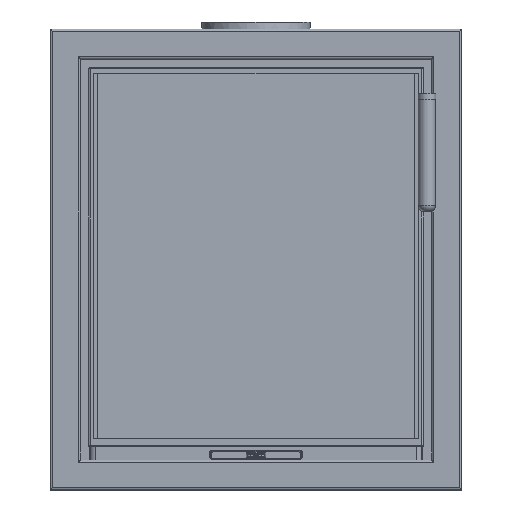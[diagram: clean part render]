
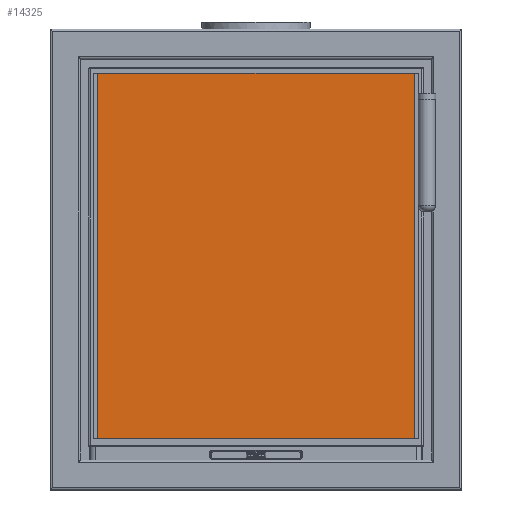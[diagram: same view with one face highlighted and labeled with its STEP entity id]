
A CAD part, front view. The second image highlights one B-rep face of the part: STEP entity #14325.
In plain terms, the highlighted planar face has unit normal (0, -1, 0).
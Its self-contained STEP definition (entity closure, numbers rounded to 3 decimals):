
#3296=ORIENTED_EDGE('',*,*,#6430,.T.);
#3297=ORIENTED_EDGE('',*,*,#6433,.T.);
#3298=ORIENTED_EDGE('',*,*,#6435,.T.);
#3299=ORIENTED_EDGE('',*,*,#6436,.T.);
#6430=EDGE_CURVE('',#8161,#8160,#9591,.T.);
#6433=EDGE_CURVE('',#8160,#8162,#9594,.T.);
#6435=EDGE_CURVE('',#8162,#8163,#9596,.T.);
#6436=EDGE_CURVE('',#8163,#8161,#9597,.T.);
#8160=VERTEX_POINT('',#27121);
#8161=VERTEX_POINT('',#27123);
#8162=VERTEX_POINT('',#27127);
#8163=VERTEX_POINT('',#27131);
#9591=LINE('',#27122,#10999);
#9594=LINE('',#27128,#11002);
#9596=LINE('',#27132,#11004);
#9597=LINE('',#27134,#11005);
#10999=VECTOR('',#18328,1000.);
#11002=VECTOR('',#18333,1000.);
#11004=VECTOR('',#18337,1000.);
#11005=VECTOR('',#18340,1000.);
#12024=EDGE_LOOP('',(#3296,#3297,#3298,#3299));
#12976=FACE_BOUND('',#12024,.T.);
#13769=PLANE('',#16041);
#14325=ADVANCED_FACE('',(#12976),#13769,.T.);
#16041=AXIS2_PLACEMENT_3D('',#27135,#18341,#18342);
#18328=DIRECTION('',(0.,0.,-1.));
#18333=DIRECTION('',(1.,0.,0.));
#18337=DIRECTION('',(0.,0.,1.));
#18340=DIRECTION('',(-1.,0.,0.));
#18341=DIRECTION('',(0.,-1.,0.));
#18342=DIRECTION('',(0.,0.,-1.));
#27121=CARTESIAN_POINT('',(-216.5,-6.,62.5));
#27122=CARTESIAN_POINT('',(-216.5,-6.,550.1));
#27123=CARTESIAN_POINT('',(-216.5,-6.,550.1));
#27127=CARTESIAN_POINT('',(216.5,-6.,62.5));
#27128=CARTESIAN_POINT('',(-216.5,-6.,62.5));
#27131=CARTESIAN_POINT('',(216.5,-6.,550.1));
#27132=CARTESIAN_POINT('',(216.5,-6.,62.5));
#27134=CARTESIAN_POINT('',(216.5,-6.,550.1));
#27135=CARTESIAN_POINT('',(0.,-6.,0.));
